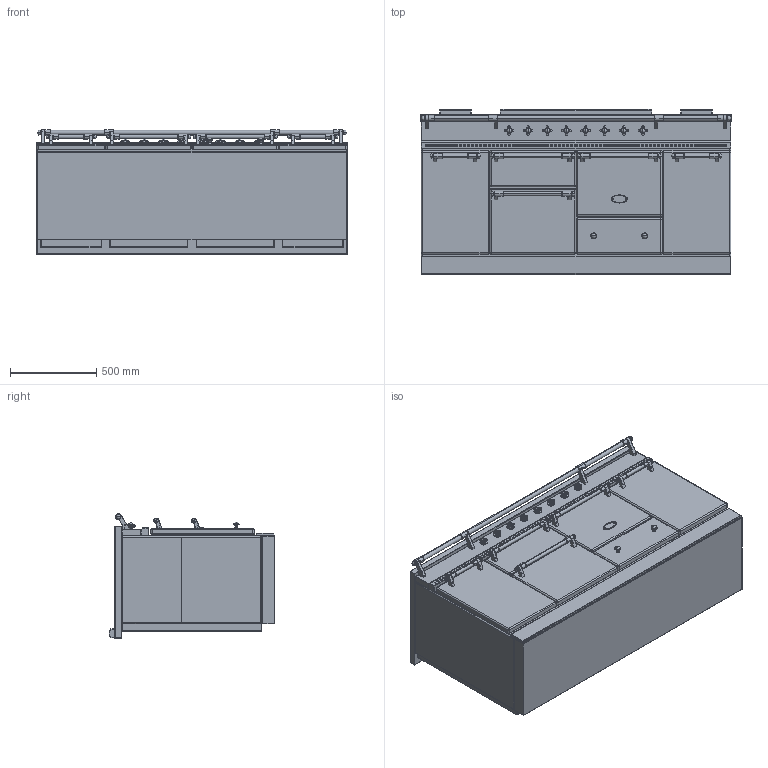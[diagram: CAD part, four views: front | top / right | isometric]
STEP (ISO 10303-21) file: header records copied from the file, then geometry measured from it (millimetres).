
FILE_DESCRIPTION((''),'2;1');
FILE_NAME('LVI1853_ASM','2021-12-02T10:06:34',('j.cheno'),(''),'CREO PARAMETRIC BY PTC INC, 2017260','CREO PARAMETRIC BY PTC INC, 2017260','');
FILE_SCHEMA(('AP203_CONFIGURATION_CONTROLLED_3D_DESIGN_OF_MECHANICAL_PARTS_AND_ASSEMBLIES_MIM_LF { 1 0 10303 403 2 1 2 }'));
Products named in the file (21): BASE_EXPORT_CHAGNY_1800; 65650003; 65650004; 65650006; 65650007; 6531940; 6531941; 6531943; 65049009; 65650001; 6538399; 1931942; 65080022_AF0; 6531942_ASM; BASE_EXPORT_CHAGNY_1800_ASM; TABLE_1805_INDUCTION; 65052013; CHEMINEE_2020_LG182_EXPORT_STEP; CHEMINEE_2020_LG882_EXPORT_STEP; TABLE_1805_INDUCTION_ASM; LVI1853_ASM
Assembly tree (37 placements, depth 4):
  LVI1853_ASM
    BASE_EXPORT_CHAGNY_1800_ASM
      BASE_EXPORT_CHAGNY_1800
      65650003
      65650004
      65650006
      65650007
      6531940  x5
      6531941  x5
      6531943  x2
      65049009
      65650001
      6531942_ASM  x8
        6538399
        1931942
        65080022_AF0
    TABLE_1805_INDUCTION_ASM
      TABLE_1805_INDUCTION
      65052013
      CHEMINEE_2020_LG182_EXPORT_STEP  x2
      CHEMINEE_2020_LG882_EXPORT_STEP
Bounding box: 1805 x 963 x 724 mm (x, y, z)
Volume: 665879243.4 mm3; surface area: 16114838.6 mm2
Topology: 58 solids, 74 shells, 6617 faces, 17867 edges, 11434 vertices
Faces by surface type: plane 3408, cylinder 2183, torus 316, extrusion 226, sphere 222, bspline 120, cone 118, revolution 24
Entity records: 142662 total; most frequent: CARTESIAN_POINT 30292, ORIENTED_EDGE 20458, DIRECTION 19809, EDGE_CURVE 10243, VECTOR 6905, LINE 6875, VERTEX_POINT 6639, AXIS2_PLACEMENT_3D 6418
